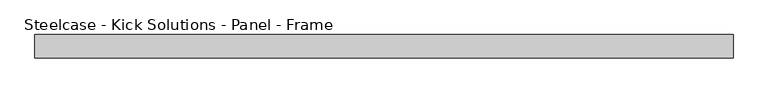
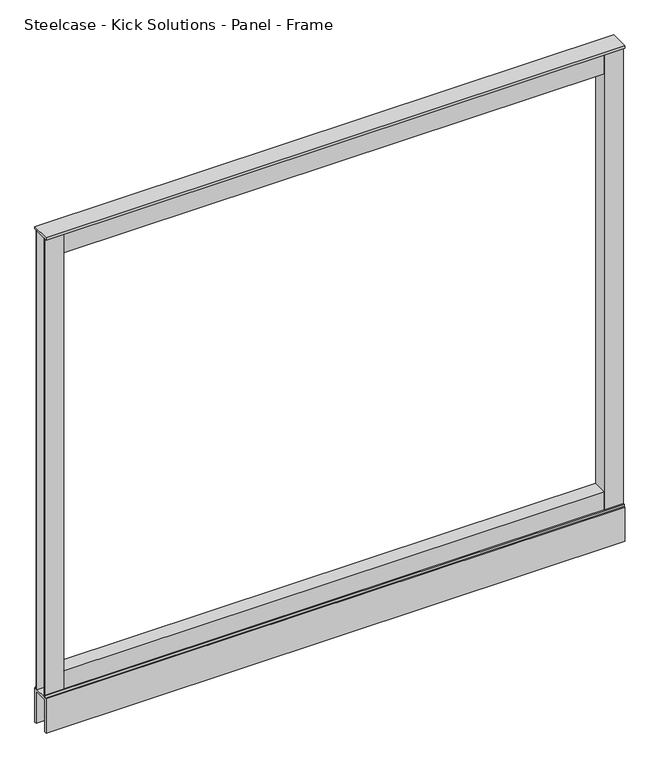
"""IFC4 building model written with IfcOpenShell, lengths in millimetres: furniture geometry, Steelcase - Kick Solutions - Panel - Frame : 54H x 60W."""

from ifc_helpers import new_model, si_unit, frame, origin, place, context, project, spatial, polyline, outline, extrude, source, transform, mapped, element, save


def steelcase_kick_solutions_panel_frame_2b734bff(model_context):
    return source(origin(), model_context, "Body", "SweptSolid", [
        extrude(outline(polyline([(50.8006646, 6.3506854), (50.8006646, -31.7493123), (0.0, -31.7493123), (0.0, -29.2093123), (48.2606646, -29.2093123), (48.2606646, 3.8106854), (0.0, 3.8106854), (0.0, 6.3506854), (50.8006646, 6.3506854)])), frame((0.0, 0.0, 95.25), z_axis=(0.0, 0.0, 1.0), x_axis=(1.0, 0.0, 0.0)), (0.0, 0.0, 1.0), 1276.35),
        extrude(outline(polyline([(1473.2006661, 6.3506854), (1524.0, 6.3506854), (1524.0, 3.8106854), (1475.7393354, 3.8106854), (1475.7393354, -29.2093123), (1524.0, -29.2093123), (1524.0, -31.7493123), (1473.2006661, -31.7493123), (1473.2006661, 6.3506854)])), frame((0.0, 0.0, 95.25), z_axis=(0.0, 0.0, 1.0), x_axis=(1.0, 0.0, 0.0)), (0.0, 0.0, 1.0), 1276.35),
        extrude(outline(polyline([(6.3506854, 101.600003), (9.5256855, 101.600003), (9.5256855, 95.25), (8.409661, 95.25), (8.409661, 100.2902081), (6.3506854, 100.2902081), (6.3506854, 101.600003)])), frame((0.0, 0.0, 0.0), z_axis=(1.0, 0.0, 0.0), x_axis=(0.0, 1.0, 0.0)), (0.0, 0.0, 1.0), 1524.0),
        extrude(outline(polyline([(-34.9243138, 101.600003), (-31.7493123, 101.600003), (-31.7493123, 100.2902081), (-33.8479845, 100.2902081), (-33.8479845, 95.25), (-34.9243138, 95.25), (-34.9243138, 101.600003)])), frame((0.0, 0.0, 0.0), z_axis=(1.0, 0.0, 0.0), x_axis=(0.0, 1.0, 0.0)), (0.0, 0.0, 1.0), 1524.0),
        extrude(outline(polyline([(1473.2006661, -31.7493123), (50.8006646, -31.7493123), (50.8006646, 6.3506854), (1473.2006661, 6.3506854), (1473.2006661, -31.7493123)])), frame((0.0, 0.0, 1314.4500242), z_axis=(0.0, 0.0, 1.0), x_axis=(1.0, 0.0, 0.0)), (0.0, 0.0, 1.0), 57.1499758),
        extrude(outline(polyline([(1473.2006661, -31.7493123), (50.8006646, -31.7493123), (50.8006646, 6.3506854), (1473.2006661, 6.3506854), (1473.2006661, -31.7493123)])), frame((0.0, 0.0, 95.25), z_axis=(0.0, 0.0, 1.0), x_axis=(1.0, 0.0, 0.0)), (0.0, 0.0, 1.0), 57.15),
        extrude(outline(polyline([(1524.0, 12.7000004), (1524.0, -38.1000011), (0.0, -38.1000011), (0.0, 12.7000004), (1524.0, 12.7000004)])), frame((0.0, 0.0, 1371.6), z_axis=(0.0, 0.0, 1.0), x_axis=(1.0, 0.0, 0.0)), (0.0, 0.0, 1.0), 6.35),
        extrude(outline(polyline([(-38.1000011, 95.25), (12.7000004, 95.25), (12.7000004, 0.0), (6.3506854, 0.0), (6.3506854, 88.9), (-31.7493123, 88.9), (-31.7493123, 0.0), (-38.1000011, 0.0), (-38.1000011, 95.25)])), frame((0.0, 0.0, 0.0), z_axis=(1.0, 0.0, 0.0), x_axis=(0.0, 1.0, 0.0)), (0.0, 0.0, 1.0), 1524.0),
    ])


if __name__ == "__main__":
    model = new_model("IFC4")
    model_context = context("Model", 3, world=origin())
    ifc_project = project(units=[si_unit("LENGTHUNIT", "METRE", prefix="MILLI")], contexts=[model_context])
    site = spatial("IfcSite", under=ifc_project)
    building = spatial("IfcBuilding", under=site)
    placement = place(None, origin())
    steelcase_kick_solutions_panel_frame_shape = steelcase_kick_solutions_panel_frame_2b734bff(model_context)
    element("IfcFurniture", 1, ObjectType="Steelcase - Kick Solutions - Panel - Frame : 54H x 60W", at=placement, inside=building, context=model_context, shape_type="MappedRepresentation", body=[
        mapped(steelcase_kick_solutions_panel_frame_shape, transform((0.0, 0.0, 0.0), x_axis=(1.0, 0.0, 0.0), y_axis=(0.0, 1.0, 0.0), z_axis=(0.0, 0.0, 1.0))),
    ])
    save(model, "model.ifc")
